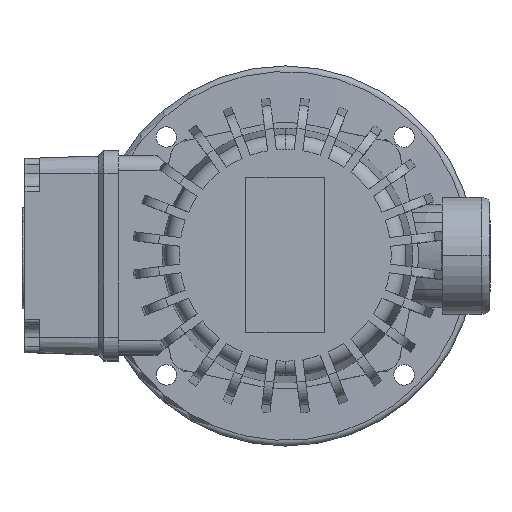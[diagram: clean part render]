
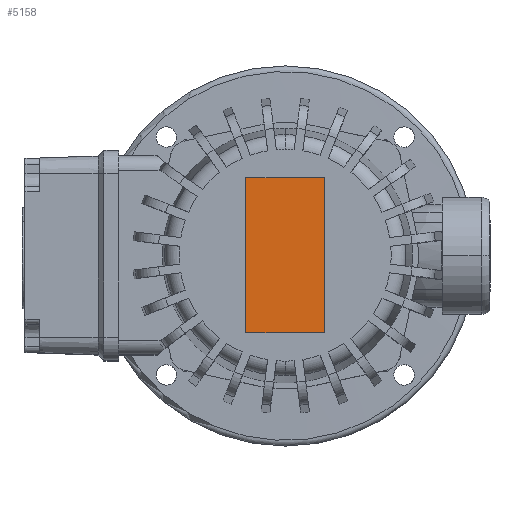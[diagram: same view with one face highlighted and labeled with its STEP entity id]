
A CAD part, top view. The second image highlights one B-rep face of the part: STEP entity #5158.
In plain terms, the highlighted planar face has unit normal (0, 0, 1).
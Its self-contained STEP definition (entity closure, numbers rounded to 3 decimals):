
#4350=VERTEX_POINT('',#10742);
#5158=ADVANCED_FACE('',(#11631),#11632,.T.);
#5842=EDGE_CURVE('',#6416,#5964,#12374,.T.);
#5964=VERTEX_POINT('',#12510);
#5982=EDGE_CURVE('',#4350,#7194,#12530,.T.);
#6006=EDGE_CURVE('',#5964,#4350,#12556,.T.);
#6416=VERTEX_POINT('',#12998);
#7194=VERTEX_POINT('',#13839);
#9252=EDGE_CURVE('',#7194,#6416,#16102,.T.);
#10742=CARTESIAN_POINT('',(-13.5,26.5,103.0));
#11631=FACE_OUTER_BOUND('',#20954,.T.);
#11632=PLANE('',#20955);
#12374=LINE('',#22440,#22441);
#12510=CARTESIAN_POINT('',(-13.5,-26.5,103.0));
#12530=LINE('',#22680,#22681);
#12556=LINE('',#22733,#22734);
#12998=CARTESIAN_POINT('',(13.5,-26.5,103.0));
#13839=CARTESIAN_POINT('',(13.5,26.5,103.0));
#16102=LINE('',#29499,#29500);
#20954=EDGE_LOOP('',(#32404,#32405,#32406,#32407));
#20955=AXIS2_PLACEMENT_3D('',#32408,#32409,#32410);
#22440=CARTESIAN_POINT('',(0.0,-26.5,103.0));
#22441=VECTOR('',#33219,1.0);
#22680=CARTESIAN_POINT('',(0.0,26.5,103.0));
#22681=VECTOR('',#33408,1.0);
#22733=CARTESIAN_POINT('',(-13.5,0.0,103.0));
#22734=VECTOR('',#33433,1.0);
#29499=CARTESIAN_POINT('',(13.5,0.0,103.0));
#29500=VECTOR('',#37372,1.0);
#32404=ORIENTED_EDGE('',*,*,#5982,.F.);
#32405=ORIENTED_EDGE('',*,*,#6006,.F.);
#32406=ORIENTED_EDGE('',*,*,#5842,.F.);
#32407=ORIENTED_EDGE('',*,*,#9252,.F.);
#32408=CARTESIAN_POINT('',(0.0,0.0,103.0));
#32409=DIRECTION('',(0.0,-0.0,1.0));
#32410=DIRECTION('',(0.0,1.0,0.0));
#33219=DIRECTION('',(-1.0,0.0,0.0));
#33408=DIRECTION('',(1.0,0.0,0.0));
#33433=DIRECTION('',(0.0,1.0,0.0));
#37372=DIRECTION('',(0.0,-1.0,0.0));
